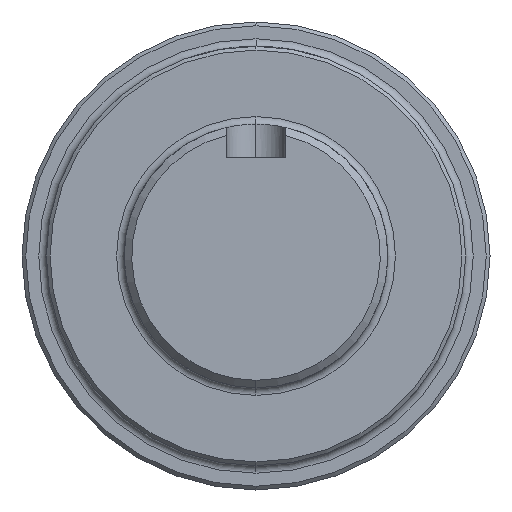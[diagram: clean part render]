
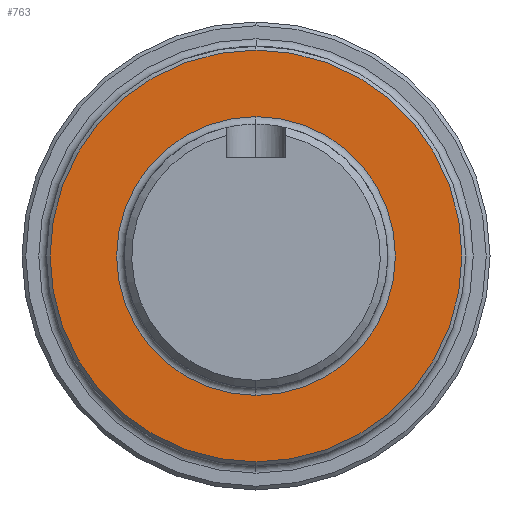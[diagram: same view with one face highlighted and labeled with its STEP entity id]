
A CAD part, left-side view. The second image highlights one B-rep face of the part: STEP entity #763.
In plain terms, the highlighted planar face has unit normal (-1, 0, 0).
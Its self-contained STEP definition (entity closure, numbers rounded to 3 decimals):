
#34 = AXIS2_PLACEMENT_3D ( 'NONE', #844, #842, #865 ) ;
#60 = AXIS2_PLACEMENT_3D ( 'NONE', #1142, #1150, #1151 ) ;
#113 = EDGE_CURVE ( 'NONE', #963, #971, #558, .T. ) ;
#123 = EDGE_CURVE ( 'NONE', #966, #221, #566, .T. ) ;
#169 = AXIS2_PLACEMENT_3D ( 'NONE', #938, #939, #940 ) ;
#221 = VERTEX_POINT ( 'NONE', #1103 ) ;
#244 = ORIENTED_EDGE ( 'NONE', *, *, #123, .T. ) ;
#245 = ORIENTED_EDGE ( 'NONE', *, *, #1755, .T. ) ;
#246 = ORIENTED_EDGE ( 'NONE', *, *, #1754, .T. ) ;
#247 = ORIENTED_EDGE ( 'NONE', *, *, #113, .T. ) ;
#327 = EDGE_LOOP ( 'NONE', ( #245, #244 ) ) ;
#336 = EDGE_LOOP ( 'NONE', ( #247, #246 ) ) ;
#558 = CIRCLE ( 'NONE', #169, 18.465 ) ;
#566 = CIRCLE ( 'NONE', #34, 27.28 ) ;
#642 = FACE_OUTER_BOUND ( 'NONE', #327, .T. ) ;
#644 = FACE_BOUND ( 'NONE', #336, .T. ) ;
#744 = CIRCLE ( 'NONE', #1716, 18.465 ) ;
#745 = CIRCLE ( 'NONE', #1717, 27.28 ) ;
#763 = ADVANCED_FACE ( 'NONE', ( #644, #642 ), #1148, .T. ) ;
#842 = DIRECTION ( 'NONE',  ( -1., 0., 0. ) ) ;
#844 = CARTESIAN_POINT ( 'NONE',  ( -118.45, 0., 0. ) ) ;
#865 = DIRECTION ( 'NONE',  ( 0., 0., 1. ) ) ;
#938 = CARTESIAN_POINT ( 'NONE',  ( -118.45, 0., 0. ) ) ;
#939 = DIRECTION ( 'NONE',  ( 1., 0., 0. ) ) ;
#940 = DIRECTION ( 'NONE',  ( 0., 0., 1. ) ) ;
#963 = VERTEX_POINT ( 'NONE', #1310 ) ;
#966 = VERTEX_POINT ( 'NONE', #1313 ) ;
#971 = VERTEX_POINT ( 'NONE', #1309 ) ;
#1103 = CARTESIAN_POINT ( 'NONE',  ( -118.45, 0., -27.28 ) ) ;
#1142 = CARTESIAN_POINT ( 'NONE',  ( -118.45, 0., 0. ) ) ;
#1148 = PLANE ( 'NONE',  #60 ) ;
#1150 = DIRECTION ( 'NONE',  ( -1., 0., 0. ) ) ;
#1151 = DIRECTION ( 'NONE',  ( 0., 0., 1. ) ) ;
#1309 = CARTESIAN_POINT ( 'NONE',  ( -118.45, 0., -18.465 ) ) ;
#1310 = CARTESIAN_POINT ( 'NONE',  ( -118.45, 0., 18.465 ) ) ;
#1313 = CARTESIAN_POINT ( 'NONE',  ( -118.45, 0., 27.28 ) ) ;
#1451 = CARTESIAN_POINT ( 'NONE',  ( -118.45, 0., 0. ) ) ;
#1452 = DIRECTION ( 'NONE',  ( 1., 0., 0. ) ) ;
#1453 = DIRECTION ( 'NONE',  ( 0., 0., 1. ) ) ;
#1456 = CARTESIAN_POINT ( 'NONE',  ( -118.45, 0., 0. ) ) ;
#1457 = DIRECTION ( 'NONE',  ( -1., 0., 0. ) ) ;
#1458 = DIRECTION ( 'NONE',  ( 0., 0., 1. ) ) ;
#1716 = AXIS2_PLACEMENT_3D ( 'NONE', #1451, #1452, #1453 ) ;
#1717 = AXIS2_PLACEMENT_3D ( 'NONE', #1456, #1457, #1458 ) ;
#1754 = EDGE_CURVE ( 'NONE', #971, #963, #744, .T. ) ;
#1755 = EDGE_CURVE ( 'NONE', #221, #966, #745, .T. ) ;
